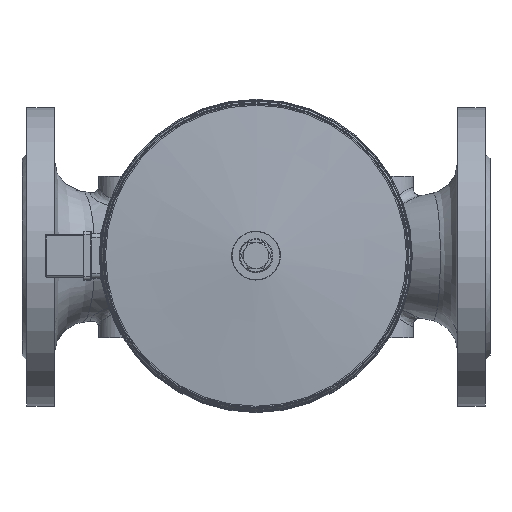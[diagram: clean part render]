
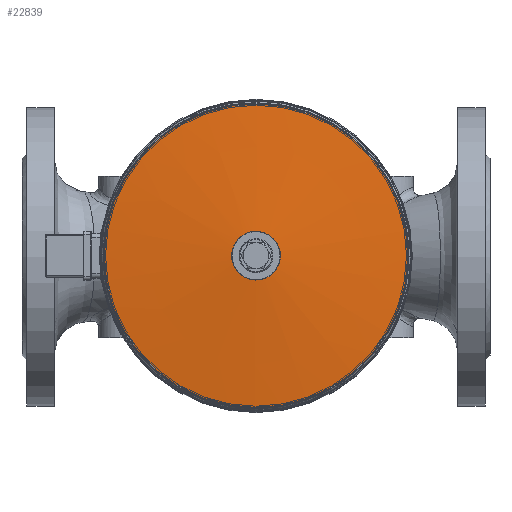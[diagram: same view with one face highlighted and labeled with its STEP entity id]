
A CAD part, top view. The second image highlights one B-rep face of the part: STEP entity #22839.
In plain terms, the highlighted conical face has half-angle 84.937 degrees and reference radius 55.344 mm.
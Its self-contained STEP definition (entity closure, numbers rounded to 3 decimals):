
#22777=CARTESIAN_POINT('',(-61.011,-71.495,322.007));
#22778=VERTEX_POINT('',#22777);
#22779=CARTESIAN_POINT('',(0.,0.,322.007));
#22780=DIRECTION('',(0.,0.,-1.0));
#22781=DIRECTION('',(0.649,0.761,0.));
#22782=AXIS2_PLACEMENT_3D('',#22779,#22780,#22781);
#22783=CIRCLE('',#22782,93.988);
#22784=EDGE_CURVE('',#22778,#22778,#22783,.T.);
#22820=CARTESIAN_POINT('',(0.,0.,325.431));
#22821=DIRECTION('',(0.,0.,-1.0));
#22822=DIRECTION('',(-0.649,-0.761,0.));
#22823=AXIS2_PLACEMENT_3D('',#22820,#22821,#22822);
#22824=CONICAL_SURFACE('',#22823,55.344,84.937);
#22825=ORIENTED_EDGE('',*,*,#22784,.F.);
#22826=EDGE_LOOP('',(#22825));
#22827=FACE_OUTER_BOUND('',#22826,.T.);
#22828=CARTESIAN_POINT('',(-9.794,-11.477,328.997));
#22829=VERTEX_POINT('',#22828);
#22830=CARTESIAN_POINT('',(0.,0.,328.997));
#22831=DIRECTION('',(0.,0.,1.));
#22832=DIRECTION('',(0.649,0.761,0.));
#22833=AXIS2_PLACEMENT_3D('',#22830,#22831,#22832);
#22834=CIRCLE('',#22833,15.088);
#22835=EDGE_CURVE('',#22829,#22829,#22834,.T.);
#22836=ORIENTED_EDGE('',*,*,#22835,.F.);
#22837=EDGE_LOOP('',(#22836));
#22838=FACE_BOUND('',#22837,.T.);
#22839=ADVANCED_FACE('',(#22827,#22838),#22824,.T.);
